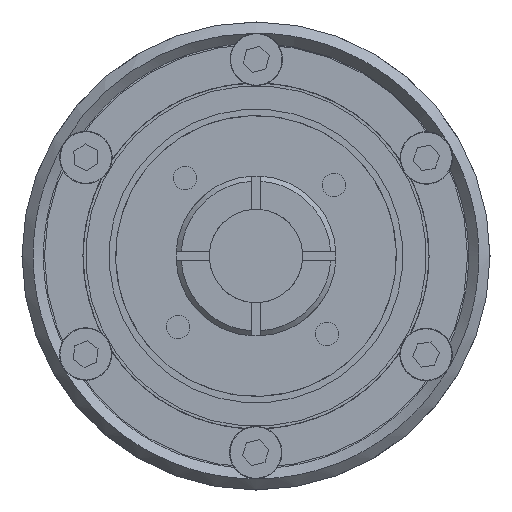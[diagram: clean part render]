
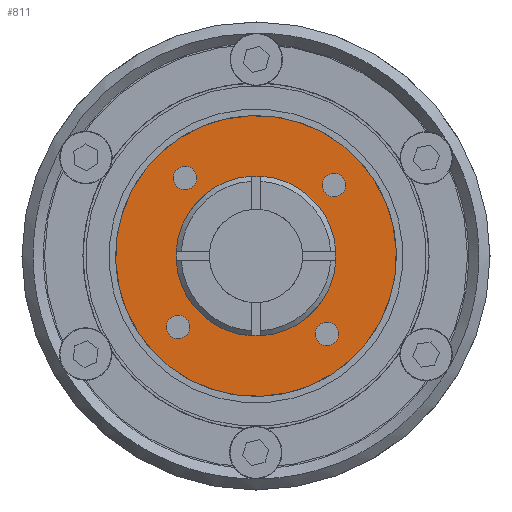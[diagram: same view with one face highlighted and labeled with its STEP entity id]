
A CAD part, left-side view. The second image highlights one B-rep face of the part: STEP entity #811.
In plain terms, the highlighted planar face has unit normal (-1, 0, 0) as drawn and (0, -1, 0) by its records, which use the part's own axes.
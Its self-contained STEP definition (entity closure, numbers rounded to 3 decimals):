
#811 = ADVANCED_FACE( '', ( #1467, #1468, #1469, #1470, #1471, #1472 ), #1473, .F. );
#1467 = FACE_OUTER_BOUND( '', #2160, .T. );
#1468 = FACE_BOUND( '', #2161, .T. );
#1469 = FACE_BOUND( '', #2162, .T. );
#1470 = FACE_BOUND( '', #2163, .T. );
#1471 = FACE_BOUND( '', #2164, .T. );
#1472 = FACE_BOUND( '', #2165, .T. );
#1473 = PLANE( '', #2166 );
#2160 = EDGE_LOOP( '', ( #3619 ) );
#2161 = EDGE_LOOP( '', ( #3620 ) );
#2162 = EDGE_LOOP( '', ( #3621 ) );
#2163 = EDGE_LOOP( '', ( #3622 ) );
#2164 = EDGE_LOOP( '', ( #3623 ) );
#2165 = EDGE_LOOP( '', ( #3624 ) );
#2166 = AXIS2_PLACEMENT_3D( '', #3625, #3626, #3627 );
#3619 = ORIENTED_EDGE( '', *, *, #4506, .T. );
#3620 = ORIENTED_EDGE( '', *, *, #4514, .F. );
#3621 = ORIENTED_EDGE( '', *, *, #4515, .F. );
#3622 = ORIENTED_EDGE( '', *, *, #4516, .F. );
#3623 = ORIENTED_EDGE( '', *, *, #4513, .F. );
#3624 = ORIENTED_EDGE( '', *, *, #4512, .F. );
#3625 = CARTESIAN_POINT( '', ( 0., 0., 15. ) );
#3626 = DIRECTION( '', ( 0., 1., 0. ) );
#3627 = DIRECTION( '', ( 1., 0., 0. ) );
#4506 = EDGE_CURVE( '', #5286, #5286, #5287, .T. );
#4512 = EDGE_CURVE( '', #5298, #5298, #5299, .T. );
#4513 = EDGE_CURVE( '', #5300, #5300, #5301, .T. );
#4514 = EDGE_CURVE( '', #5302, #5302, #5303, .T. );
#4515 = EDGE_CURVE( '', #5304, #5304, #5305, .T. );
#4516 = EDGE_CURVE( '', #5306, #5306, #5307, .T. );
#5286 = VERTEX_POINT( '', #6482 );
#5287 = CIRCLE( '', #6483, 15. );
#5298 = VERTEX_POINT( '', #6494 );
#5299 = CIRCLE( '', #6495, 8.5 );
#5300 = VERTEX_POINT( '', #6496 );
#5301 = CIRCLE( '', #6497, 1.25 );
#5302 = VERTEX_POINT( '', #6498 );
#5303 = CIRCLE( '', #6499, 1.25 );
#5304 = VERTEX_POINT( '', #6500 );
#5305 = CIRCLE( '', #6501, 1.25 );
#5306 = VERTEX_POINT( '', #6502 );
#5307 = CIRCLE( '', #6503, 1.25 );
#6482 = CARTESIAN_POINT( '', ( 0., 0., -15. ) );
#6483 = AXIS2_PLACEMENT_3D( '', #7614, #7615, #7616 );
#6494 = CARTESIAN_POINT( '', ( 0., 0., -8.5 ) );
#6495 = AXIS2_PLACEMENT_3D( '', #7632, #7633, #7634 );
#6496 = CARTESIAN_POINT( '', ( 1.25, 0., 11.25 ) );
#6497 = AXIS2_PLACEMENT_3D( '', #7635, #7636, #7637 );
#6498 = CARTESIAN_POINT( '', ( -11.25, 0., 1.25 ) );
#6499 = AXIS2_PLACEMENT_3D( '', #7638, #7639, #7640 );
#6500 = CARTESIAN_POINT( '', ( -1.25, 0., -11.25 ) );
#6501 = AXIS2_PLACEMENT_3D( '', #7641, #7642, #7643 );
#6502 = CARTESIAN_POINT( '', ( 11.25, 0., -1.25 ) );
#6503 = AXIS2_PLACEMENT_3D( '', #7644, #7645, #7646 );
#7614 = CARTESIAN_POINT( '', ( 0., 0., 0. ) );
#7615 = DIRECTION( '', ( 0., -1., 0. ) );
#7616 = DIRECTION( '', ( 0., 0., -1. ) );
#7632 = CARTESIAN_POINT( '', ( 0., 0., 0. ) );
#7633 = DIRECTION( '', ( 0., -1., 0. ) );
#7634 = DIRECTION( '', ( 0., 0., -1. ) );
#7635 = CARTESIAN_POINT( '', ( 0., 0., 11.25 ) );
#7636 = DIRECTION( '', ( 0., -1., 0. ) );
#7637 = DIRECTION( '', ( 1., 0., 0. ) );
#7638 = CARTESIAN_POINT( '', ( -11.25, 0., 0. ) );
#7639 = DIRECTION( '', ( 0., -1., 0. ) );
#7640 = DIRECTION( '', ( 0., 0., 1. ) );
#7641 = CARTESIAN_POINT( '', ( 0., 0., -11.25 ) );
#7642 = DIRECTION( '', ( 0., -1., 0. ) );
#7643 = DIRECTION( '', ( -1., 0., 0. ) );
#7644 = CARTESIAN_POINT( '', ( 11.25, 0., 0. ) );
#7645 = DIRECTION( '', ( 0., -1., 0. ) );
#7646 = DIRECTION( '', ( 0., 0., -1. ) );
